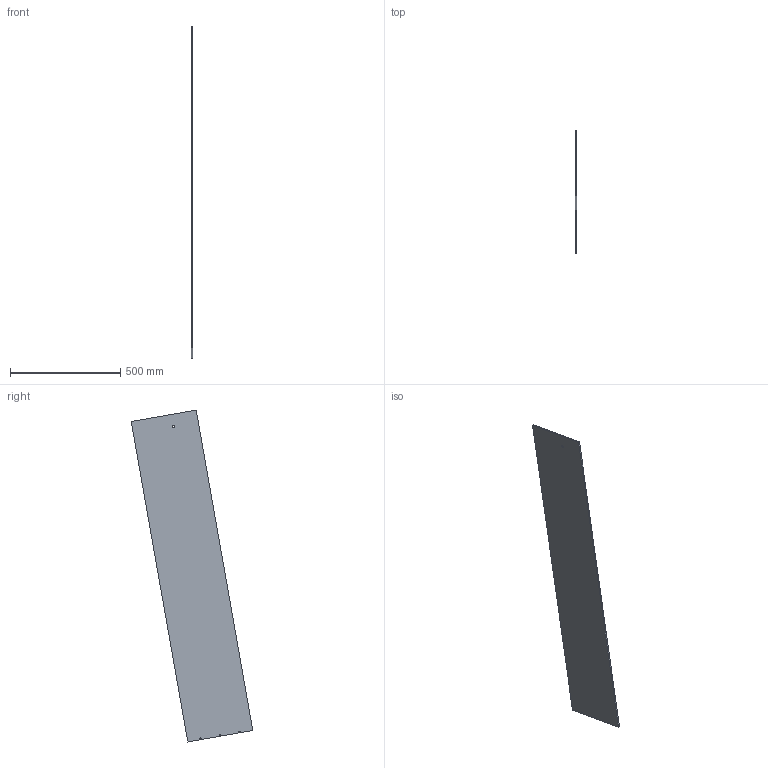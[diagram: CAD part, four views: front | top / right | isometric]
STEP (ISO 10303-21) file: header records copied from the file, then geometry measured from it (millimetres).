
FILE_DESCRIPTION(('golf model'),'2;1');
FILE_NAME('golf','',(''),(''),'golf_step_io','golf','');
FILE_SCHEMA(('AUTOMOTIVE_DESIGN { 1 0 10303 214 1 1 1 1 }'));
Length unit declared in the file: millimetre
Products named in the file (2): ASSEMBLY; gantry_frame.web_mx
Assembly tree (1 placements, depth 2):
  ASSEMBLY
    gantry_frame.web_mx
Bounding box: 6 x 552.09 x 1507.64 mm (x, y, z)
Volume: 2659402.5 mm3; surface area: 908346.4 mm2
Topology: 1 solids, 1 shells, 10 faces, 24 edges, 16 vertices
Faces by surface type: plane 6, cylinder 4
Full cylindrical faces by diameter (mm): 6.6 x3, 9 x1
Entity records: 326 total; most frequent: DIRECTION 52, CARTESIAN_POINT 48, ORIENTED_EDGE 40, EDGE_LOOP 22, AXIS2_PLACEMENT_3D 20, EDGE_CURVE 20, FACE_BOUND 20, VERTEX_POINT 16
